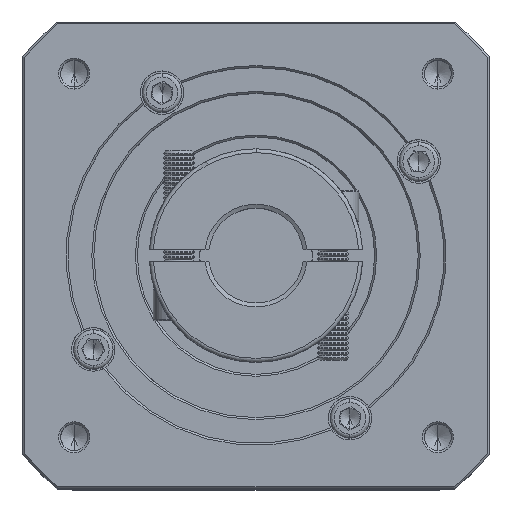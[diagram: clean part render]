
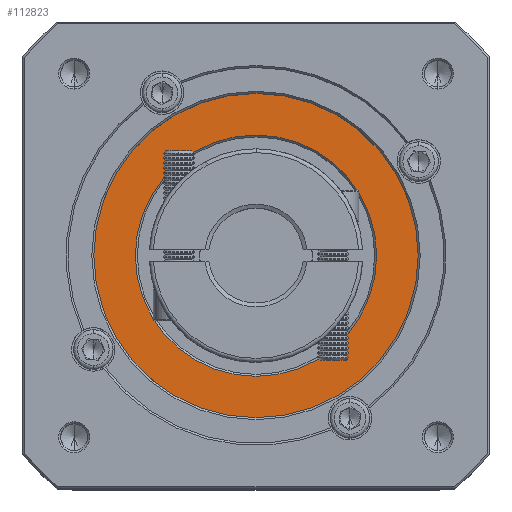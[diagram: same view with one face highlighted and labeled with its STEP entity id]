
A CAD part, top view. The second image highlights one B-rep face of the part: STEP entity #112823.
In plain terms, the highlighted planar face has unit normal (0, 0, 1).
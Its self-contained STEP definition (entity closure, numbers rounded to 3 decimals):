
#5030 = ORIENTED_EDGE ( 'NONE', *, *, #99405, .T. ) ;
#7787 = AXIS2_PLACEMENT_3D ( 'NONE', #58722, #48388, #70446 ) ;
#8525 = FACE_BOUND ( 'NONE', #74215, .T. ) ;
#10878 = CIRCLE ( 'NONE', #47507, 30.5 ) ;
#13577 = VERTEX_POINT ( 'NONE', #126342 ) ;
#19622 = CARTESIAN_POINT ( 'NONE',  ( 79.12, 55.652, -27.208 ) ) ;
#38664 = DIRECTION ( 'NONE',  ( 1., 0., 0. ) ) ;
#38790 = AXIS2_PLACEMENT_3D ( 'NONE', #65648, #54869, #126669 ) ;
#45919 = CIRCLE ( 'NONE', #122221, 30.5 ) ;
#47507 = AXIS2_PLACEMENT_3D ( 'NONE', #120375, #67457, #99289 ) ;
#48388 = DIRECTION ( 'NONE',  ( 0., 0., 1. ) ) ;
#50782 = CARTESIAN_POINT ( 'NONE',  ( 48.62, 55.652, -27.208 ) ) ;
#50877 = EDGE_CURVE ( 'NONE', #122128, #13577, #125145, .T. ) ;
#53802 = EDGE_LOOP ( 'NONE', ( #68016, #89920 ) ) ;
#54869 = DIRECTION ( 'NONE',  ( 0., 0., 1. ) ) ;
#57875 = DIRECTION ( 'NONE',  ( 0., 1., 0. ) ) ;
#58303 = DIRECTION ( 'NONE',  ( 0., 0., 1. ) ) ;
#58722 = CARTESIAN_POINT ( 'NONE',  ( 48.62, 55.652, -27.208 ) ) ;
#58763 = CARTESIAN_POINT ( 'NONE',  ( 48.62, 55.652, -27.208 ) ) ;
#65648 = CARTESIAN_POINT ( 'NONE',  ( 48.62, 55.652, -27.208 ) ) ;
#67457 = DIRECTION ( 'NONE',  ( 0., 0., -1. ) ) ;
#68016 = ORIENTED_EDGE ( 'NONE', *, *, #50877, .T. ) ;
#69183 = AXIS2_PLACEMENT_3D ( 'NONE', #58763, #58303, #57875 ) ;
#70446 = DIRECTION ( 'NONE',  ( 0., 1., 0. ) ) ;
#74215 = EDGE_LOOP ( 'NONE', ( #5030, #85284 ) ) ;
#83730 = CIRCLE ( 'NONE', #7787, 41. ) ;
#85284 = ORIENTED_EDGE ( 'NONE', *, *, #123950, .T. ) ;
#86226 = EDGE_CURVE ( 'NONE', #13577, #122128, #83730, .T. ) ;
#89920 = ORIENTED_EDGE ( 'NONE', *, *, #86226, .T. ) ;
#91804 = CARTESIAN_POINT ( 'NONE',  ( 48.62, 96.652, -27.208 ) ) ;
#99289 = DIRECTION ( 'NONE',  ( 1., 0., 0. ) ) ;
#99405 = EDGE_CURVE ( 'NONE', #122139, #123405, #45919, .T. ) ;
#103192 = FACE_OUTER_BOUND ( 'NONE', #53802, .T. ) ;
#109530 = PLANE ( 'NONE',  #69183 ) ;
#110980 = DIRECTION ( 'NONE',  ( 0., 0., -1. ) ) ;
#112823 = ADVANCED_FACE ( 'NONE', ( #103192, #8525 ), #109530, .T. ) ;
#120375 = CARTESIAN_POINT ( 'NONE',  ( 48.62, 55.652, -27.208 ) ) ;
#122128 = VERTEX_POINT ( 'NONE', #91804 ) ;
#122139 = VERTEX_POINT ( 'NONE', #19622 ) ;
#122221 = AXIS2_PLACEMENT_3D ( 'NONE', #50782, #110980, #38664 ) ;
#123405 = VERTEX_POINT ( 'NONE', #128106 ) ;
#123950 = EDGE_CURVE ( 'NONE', #123405, #122139, #10878, .T. ) ;
#125145 = CIRCLE ( 'NONE', #38790, 41. ) ;
#126342 = CARTESIAN_POINT ( 'NONE',  ( 48.62, 14.652, -27.208 ) ) ;
#126669 = DIRECTION ( 'NONE',  ( 0., 1., 0. ) ) ;
#128106 = CARTESIAN_POINT ( 'NONE',  ( 18.12, 55.652, -27.208 ) ) ;
